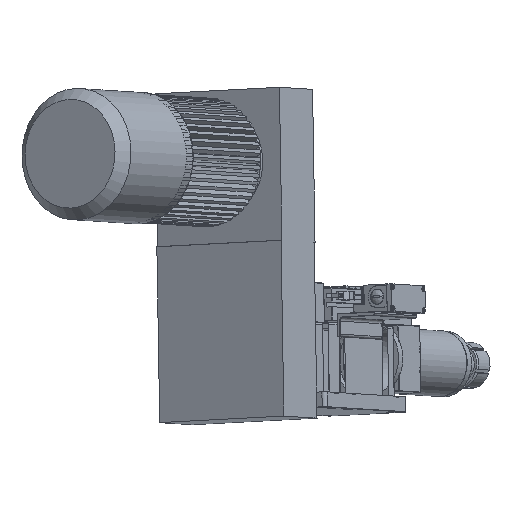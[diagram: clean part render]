
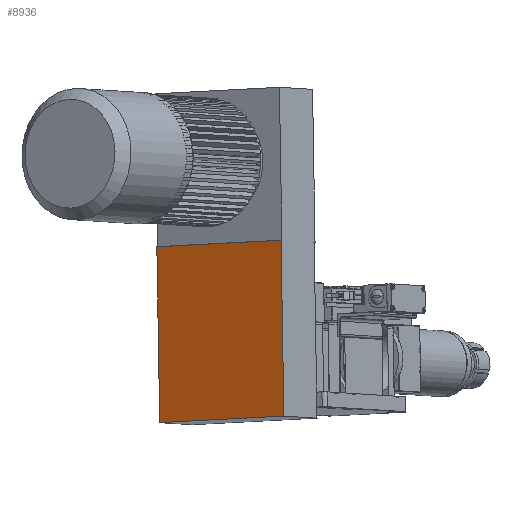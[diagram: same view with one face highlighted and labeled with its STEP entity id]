
A CAD part, left-side view. The second image highlights one B-rep face of the part: STEP entity #8936.
In plain terms, the highlighted planar face has unit normal (-0.827, 0.562, 0.036).
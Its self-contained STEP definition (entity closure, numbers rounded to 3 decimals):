
#8771=CARTESIAN_POINT('',(-223.664,26.346,227.698));
#8772=VERTEX_POINT('',#8771);
#8779=CARTESIAN_POINT('',(-236.117,22.624,-1.934));
#8780=VERTEX_POINT('',#8779);
#8781=CARTESIAN_POINT('',(-236.117,22.624,-1.934));
#8782=DIRECTION('',(0.054,0.016,0.998));
#8783=VECTOR('',#8782,230.);
#8784=LINE('',#8781,#8783);
#8785=EDGE_CURVE('',#8780,#8772,#8784,.T.);
#8810=CARTESIAN_POINT('',(-126.288,184.734,-10.517));
#8811=VERTEX_POINT('',#8810);
#8812=CARTESIAN_POINT('',(-126.288,184.734,-10.517));
#8813=DIRECTION('',(-0.56,-0.827,0.044));
#8814=VECTOR('',#8813,196.);
#8815=LINE('',#8812,#8814);
#8816=EDGE_CURVE('',#8811,#8780,#8815,.T.);
#8841=CARTESIAN_POINT('',(-113.834,188.456,219.115));
#8842=VERTEX_POINT('',#8841);
#8843=CARTESIAN_POINT('',(-126.288,184.734,-10.517));
#8844=DIRECTION('',(0.054,0.016,0.998));
#8845=VECTOR('',#8844,230.);
#8846=LINE('',#8843,#8845);
#8847=EDGE_CURVE('',#8811,#8842,#8846,.T.);
#8916=CARTESIAN_POINT('',(-113.834,188.456,219.115));
#8917=DIRECTION('',(-0.56,-0.827,0.044));
#8918=VECTOR('',#8917,196.0);
#8919=LINE('',#8916,#8918);
#8920=EDGE_CURVE('',#8842,#8772,#8919,.T.);
#8925=CARTESIAN_POINT('',(-126.288,184.734,-10.517));
#8926=DIRECTION('',(-0.826,0.562,0.036));
#8927=DIRECTION('',(-0.56,-0.827,0.044));
#8928=AXIS2_PLACEMENT_3D('',#8925,#8926,#8927);
#8929=PLANE('',#8928);
#8930=ORIENTED_EDGE('',*,*,#8785,.T.);
#8931=ORIENTED_EDGE('',*,*,#8920,.F.);
#8932=ORIENTED_EDGE('',*,*,#8847,.F.);
#8933=ORIENTED_EDGE('',*,*,#8816,.T.);
#8934=EDGE_LOOP('',(#8930,#8931,#8932,#8933));
#8935=FACE_OUTER_BOUND('',#8934,.T.);
#8936=ADVANCED_FACE('',(#8935),#8929,.T.);
